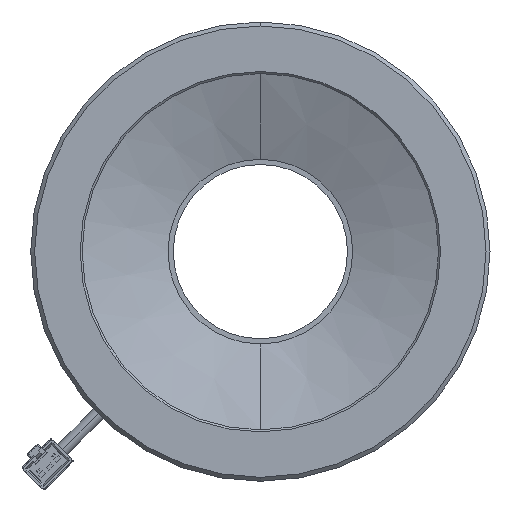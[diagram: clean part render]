
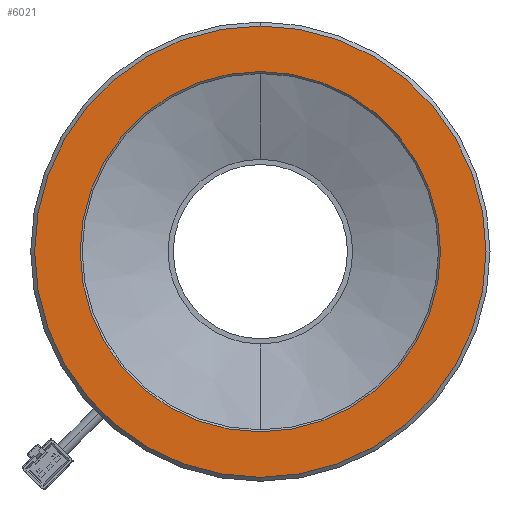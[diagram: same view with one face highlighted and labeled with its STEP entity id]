
A CAD part, front view. The second image highlights one B-rep face of the part: STEP entity #6021.
In plain terms, the highlighted planar face has unit normal (0, -1, 0).
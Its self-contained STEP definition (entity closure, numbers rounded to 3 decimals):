
#88 = DIRECTION ( 'NONE',  ( 0., 0., 1. ) ) ;
#179 = CIRCLE ( 'NONE', #2812, 57. ) ;
#454 = EDGE_CURVE ( 'NONE', #5690, #7776, #3192, .T. ) ;
#484 = FACE_OUTER_BOUND ( 'NONE', #6383, .T. ) ;
#939 = ORIENTED_EDGE ( 'NONE', *, *, #454, .F. ) ;
#1006 = CARTESIAN_POINT ( 'NONE',  ( 0., -17., 0. ) ) ;
#1244 = CARTESIAN_POINT ( 'NONE',  ( 0., -17., 0. ) ) ;
#1316 = CARTESIAN_POINT ( 'NONE',  ( 0., -17., 0. ) ) ;
#1436 = VERTEX_POINT ( 'NONE', #8485 ) ;
#1473 = PLANE ( 'NONE',  #4665 ) ;
#1682 = CARTESIAN_POINT ( 'NONE',  ( 0., -17., -45.5 ) ) ;
#2135 = ORIENTED_EDGE ( 'NONE', *, *, #3405, .F. ) ;
#2322 = EDGE_LOOP ( 'NONE', ( #939, #9134 ) ) ;
#2635 = DIRECTION ( 'NONE',  ( 0., 0., 1. ) ) ;
#2812 = AXIS2_PLACEMENT_3D ( 'NONE', #5383, #8300, #6201 ) ;
#3192 = CIRCLE ( 'NONE', #8580, 45.5 ) ;
#3321 = DIRECTION ( 'NONE',  ( 0., 1., 0. ) ) ;
#3405 = EDGE_CURVE ( 'NONE', #1436, #7958, #3501, .T. ) ;
#3501 = CIRCLE ( 'NONE', #6203, 57. ) ;
#4665 = AXIS2_PLACEMENT_3D ( 'NONE', #5175, #8866, #88 ) ;
#4822 = DIRECTION ( 'NONE',  ( 0., -1., 0. ) ) ;
#4841 = DIRECTION ( 'NONE',  ( 0., 0., -1. ) ) ;
#5175 = CARTESIAN_POINT ( 'NONE',  ( 0., -17., 0. ) ) ;
#5298 = DIRECTION ( 'NONE',  ( 0., 0., -1. ) ) ;
#5383 = CARTESIAN_POINT ( 'NONE',  ( 0., -17., 0. ) ) ;
#5690 = VERTEX_POINT ( 'NONE', #1682 ) ;
#6021 = ADVANCED_FACE ( 'NONE', ( #8053, #484 ), #1473, .F. ) ;
#6201 = DIRECTION ( 'NONE',  ( 0., 0., 1. ) ) ;
#6203 = AXIS2_PLACEMENT_3D ( 'NONE', #1316, #3321, #2635 ) ;
#6383 = EDGE_LOOP ( 'NONE', ( #2135, #6935 ) ) ;
#6430 = EDGE_CURVE ( 'NONE', #7776, #5690, #8285, .T. ) ;
#6837 = DIRECTION ( 'NONE',  ( 0., -1., 0. ) ) ;
#6935 = ORIENTED_EDGE ( 'NONE', *, *, #7853, .F. ) ;
#7737 = AXIS2_PLACEMENT_3D ( 'NONE', #1006, #6837, #5298 ) ;
#7776 = VERTEX_POINT ( 'NONE', #8915 ) ;
#7835 = CARTESIAN_POINT ( 'NONE',  ( 0., -17., -57. ) ) ;
#7853 = EDGE_CURVE ( 'NONE', #7958, #1436, #179, .T. ) ;
#7958 = VERTEX_POINT ( 'NONE', #7835 ) ;
#8053 = FACE_BOUND ( 'NONE', #2322, .T. ) ;
#8285 = CIRCLE ( 'NONE', #7737, 45.5 ) ;
#8300 = DIRECTION ( 'NONE',  ( 0., 1., 0. ) ) ;
#8485 = CARTESIAN_POINT ( 'NONE',  ( 0., -17., 57. ) ) ;
#8580 = AXIS2_PLACEMENT_3D ( 'NONE', #1244, #4822, #4841 ) ;
#8866 = DIRECTION ( 'NONE',  ( 0., 1., 0. ) ) ;
#8915 = CARTESIAN_POINT ( 'NONE',  ( 0., -17., 45.5 ) ) ;
#9134 = ORIENTED_EDGE ( 'NONE', *, *, #6430, .F. ) ;
